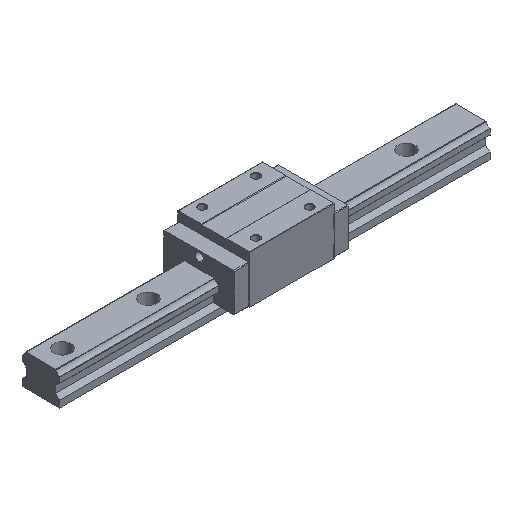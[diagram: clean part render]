
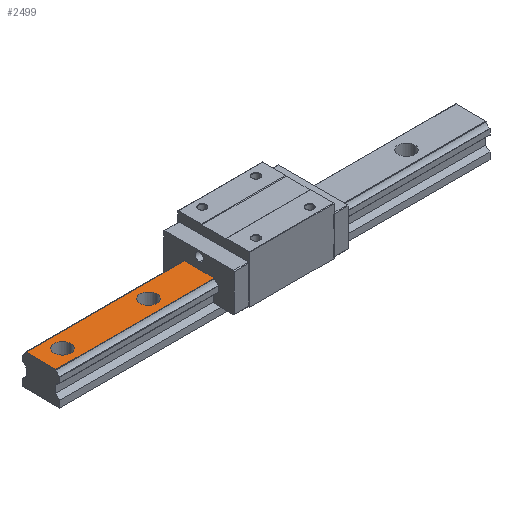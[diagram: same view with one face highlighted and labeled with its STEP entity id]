
A CAD part, isometric view. The second image highlights one B-rep face of the part: STEP entity #2499.
In plain terms, the highlighted planar face has unit normal (0, 0, 1).
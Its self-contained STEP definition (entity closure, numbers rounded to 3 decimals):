
#67 = CARTESIAN_POINT ( 'NONE',  ( -79.2, -20.894, 44. ) ) ;
#99 = ORIENTED_EDGE ( 'NONE', *, *, #2459, .F. ) ;
#166 = LINE ( 'NONE', #481, #3924 ) ;
#270 = CIRCLE ( 'NONE', #3999, 11.5 ) ;
#335 = CARTESIAN_POINT ( 'NONE',  ( 300., 20.894, 44. ) ) ;
#438 = DIRECTION ( 'NONE',  ( 0., -1., 0. ) ) ;
#481 = CARTESIAN_POINT ( 'NONE',  ( -79.2, -20.894, 44. ) ) ;
#544 = CARTESIAN_POINT ( 'NONE',  ( -138.5, 0., 44. ) ) ;
#579 = AXIS2_PLACEMENT_3D ( 'NONE', #3552, #723, #3122 ) ;
#604 = DIRECTION ( 'NONE',  ( -1., 0., 0. ) ) ;
#618 = ORIENTED_EDGE ( 'NONE', *, *, #3956, .T. ) ;
#625 = CARTESIAN_POINT ( 'NONE',  ( -300., -20.894, 44. ) ) ;
#691 = CIRCLE ( 'NONE', #3602, 11.5 ) ;
#723 = DIRECTION ( 'NONE',  ( 0., 0., -1. ) ) ;
#727 = EDGE_LOOP ( 'NONE', ( #1318, #99, #4396, #3246 ) ) ;
#1318 = ORIENTED_EDGE ( 'NONE', *, *, #1331, .T. ) ;
#1331 = EDGE_CURVE ( 'NONE', #5040, #2922, #4279, .T. ) ;
#1353 = EDGE_CURVE ( 'NONE', #2858, #3508, #1961, .T. ) ;
#1483 = EDGE_CURVE ( 'NONE', #3014, #1592, #691, .T. ) ;
#1592 = VERTEX_POINT ( 'NONE', #5016 ) ;
#1651 = EDGE_CURVE ( 'NONE', #1780, #3972, #270, .T. ) ;
#1660 = CARTESIAN_POINT ( 'NONE',  ( -270., 0., 44. ) ) ;
#1684 = AXIS2_PLACEMENT_3D ( 'NONE', #3706, #1724, #3657 ) ;
#1690 = EDGE_LOOP ( 'NONE', ( #4513, #1787 ) ) ;
#1700 = FACE_OUTER_BOUND ( 'NONE', #727, .T. ) ;
#1724 = DIRECTION ( 'NONE',  ( 0., 0., -1. ) ) ;
#1780 = VERTEX_POINT ( 'NONE', #1813 ) ;
#1787 = ORIENTED_EDGE ( 'NONE', *, *, #1483, .T. ) ;
#1813 = CARTESIAN_POINT ( 'NONE',  ( -281.5, 0., 44. ) ) ;
#1961 = LINE ( 'NONE', #335, #4401 ) ;
#1987 = EDGE_CURVE ( 'NONE', #1592, #3014, #2824, .T. ) ;
#2453 = FACE_BOUND ( 'NONE', #2841, .T. ) ;
#2459 = EDGE_CURVE ( 'NONE', #2858, #2922, #166, .T. ) ;
#2499 = ADVANCED_FACE ( 'NONE', ( #4005, #2453, #1700 ), #4036, .F. ) ;
#2532 = VECTOR ( 'NONE', #438, 1000. ) ;
#2606 = CARTESIAN_POINT ( 'NONE',  ( -300., 20.894, 44. ) ) ;
#2781 = DIRECTION ( 'NONE',  ( -1., 0., 0. ) ) ;
#2824 = CIRCLE ( 'NONE', #579, 11.5 ) ;
#2836 = LINE ( 'NONE', #4464, #2532 ) ;
#2841 = EDGE_LOOP ( 'NONE', ( #3095, #618 ) ) ;
#2858 = VERTEX_POINT ( 'NONE', #4387 ) ;
#2908 = DIRECTION ( 'NONE',  ( 0., -1., 0. ) ) ;
#2922 = VERTEX_POINT ( 'NONE', #67 ) ;
#3014 = VERTEX_POINT ( 'NONE', #544 ) ;
#3095 = ORIENTED_EDGE ( 'NONE', *, *, #1651, .T. ) ;
#3122 = DIRECTION ( 'NONE',  ( -1., 0., 0. ) ) ;
#3246 = ORIENTED_EDGE ( 'NONE', *, *, #4182, .T. ) ;
#3275 = DIRECTION ( 'NONE',  ( 0., 0., -1. ) ) ;
#3508 = VERTEX_POINT ( 'NONE', #2606 ) ;
#3535 = CARTESIAN_POINT ( 'NONE',  ( -270., 0., 44. ) ) ;
#3552 = CARTESIAN_POINT ( 'NONE',  ( -150., 0., 44. ) ) ;
#3602 = AXIS2_PLACEMENT_3D ( 'NONE', #4166, #3829, #604 ) ;
#3657 = DIRECTION ( 'NONE',  ( 0., -1., 0. ) ) ;
#3706 = CARTESIAN_POINT ( 'NONE',  ( 300., 0., 44. ) ) ;
#3829 = DIRECTION ( 'NONE',  ( 0., 0., -1. ) ) ;
#3876 = CARTESIAN_POINT ( 'NONE',  ( -258.5, 0., 44. ) ) ;
#3892 = DIRECTION ( 'NONE',  ( 1., 0., 0. ) ) ;
#3914 = CARTESIAN_POINT ( 'NONE',  ( 300., -20.894, 44. ) ) ;
#3924 = VECTOR ( 'NONE', #2908, 1000. ) ;
#3942 = AXIS2_PLACEMENT_3D ( 'NONE', #3535, #4334, #2781 ) ;
#3956 = EDGE_CURVE ( 'NONE', #3972, #1780, #4441, .T. ) ;
#3972 = VERTEX_POINT ( 'NONE', #3876 ) ;
#3999 = AXIS2_PLACEMENT_3D ( 'NONE', #1660, #3275, #4492 ) ;
#4005 = FACE_BOUND ( 'NONE', #1690, .T. ) ;
#4036 = PLANE ( 'NONE',  #1684 ) ;
#4166 = CARTESIAN_POINT ( 'NONE',  ( -150., 0., 44. ) ) ;
#4182 = EDGE_CURVE ( 'NONE', #3508, #5040, #2836, .T. ) ;
#4279 = LINE ( 'NONE', #3914, #4319 ) ;
#4319 = VECTOR ( 'NONE', #3892, 1000. ) ;
#4334 = DIRECTION ( 'NONE',  ( 0., 0., -1. ) ) ;
#4387 = CARTESIAN_POINT ( 'NONE',  ( -79.2, 20.894, 44. ) ) ;
#4396 = ORIENTED_EDGE ( 'NONE', *, *, #1353, .T. ) ;
#4401 = VECTOR ( 'NONE', #5077, 1000. ) ;
#4441 = CIRCLE ( 'NONE', #3942, 11.5 ) ;
#4464 = CARTESIAN_POINT ( 'NONE',  ( -300., 0., 44. ) ) ;
#4492 = DIRECTION ( 'NONE',  ( -1., 0., 0. ) ) ;
#4513 = ORIENTED_EDGE ( 'NONE', *, *, #1987, .T. ) ;
#5016 = CARTESIAN_POINT ( 'NONE',  ( -161.5, 0., 44. ) ) ;
#5040 = VERTEX_POINT ( 'NONE', #625 ) ;
#5077 = DIRECTION ( 'NONE',  ( -1., 0., 0. ) ) ;
